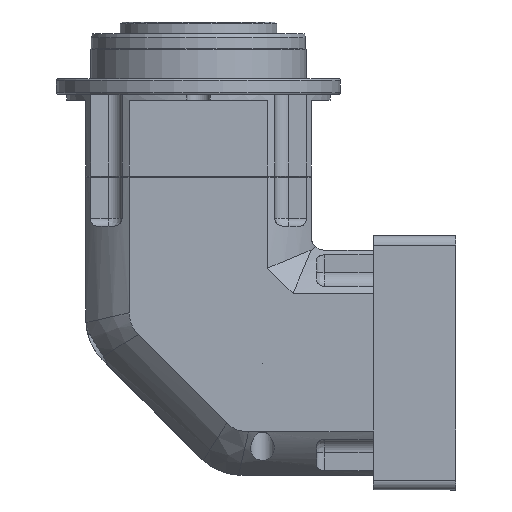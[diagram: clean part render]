
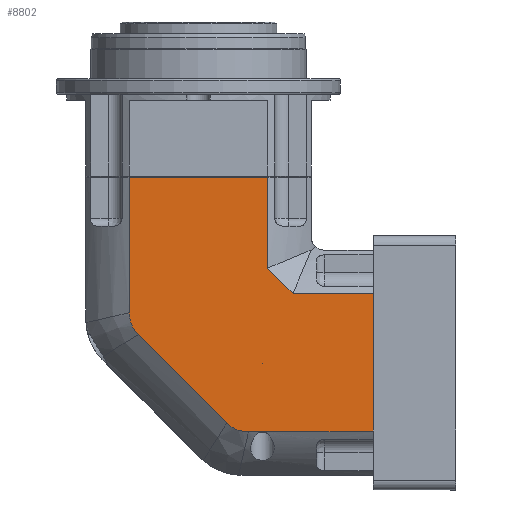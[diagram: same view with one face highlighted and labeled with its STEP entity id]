
A CAD part, left-side view. The second image highlights one B-rep face of the part: STEP entity #8802.
In plain terms, the highlighted planar face has unit normal (-1, 0, 0).
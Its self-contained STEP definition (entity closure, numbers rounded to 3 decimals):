
#6913=CARTESIAN_POINT('',(-57.5,35.355,152.3));
#6914=VERTEX_POINT('',#6913);
#6922=CARTESIAN_POINT('',(-57.5,-35.355,152.3));
#6923=VERTEX_POINT('',#6922);
#6924=CARTESIAN_POINT('',(-57.5,-35.355,152.3));
#6925=DIRECTION('',(0.0,1.0,0.0));
#6926=VECTOR('',#6925,70.711);
#6927=LINE('',#6924,#6926);
#6928=EDGE_CURVE('',#6923,#6914,#6927,.T.);
#7605=CARTESIAN_POINT('',(-57.5,-89.3,92.855));
#7606=VERTEX_POINT('',#7605);
#7614=CARTESIAN_POINT('',(-57.5,-89.3,22.145));
#7615=VERTEX_POINT('',#7614);
#7616=CARTESIAN_POINT('',(-57.5,-89.3,22.145));
#7617=DIRECTION('',(0.0,0.0,1.0));
#7618=VECTOR('',#7617,70.711);
#7619=LINE('',#7616,#7618);
#7620=EDGE_CURVE('',#7615,#7606,#7619,.T.);
#8141=CARTESIAN_POINT('',(-57.5,-25.547,22.145));
#8142=VERTEX_POINT('',#8141);
#8143=CARTESIAN_POINT('',(-57.5,-25.547,22.145));
#8144=DIRECTION('',(0.0,-1.0,0.0));
#8145=VECTOR('',#8144,63.753);
#8146=LINE('',#8143,#8145);
#8147=EDGE_CURVE('',#8142,#7615,#8146,.T.);
#8563=CARTESIAN_POINT('',(-57.5,-14.436,26.747));
#8564=VERTEX_POINT('',#8563);
#8574=CARTESIAN_POINT('',(-57.5,30.753,71.936));
#8575=VERTEX_POINT('',#8574);
#8576=CARTESIAN_POINT('',(-57.5,30.753,71.936));
#8577=DIRECTION('',(0.,-0.707,-0.707));
#8578=VECTOR('',#8577,63.906);
#8579=LINE('',#8576,#8578);
#8580=EDGE_CURVE('',#8575,#8564,#8579,.T.);
#8650=CARTESIAN_POINT('',(-57.5,-25.547,22.145));
#8651=CARTESIAN_POINT('',(-57.5,-23.474,22.145));
#8652=CARTESIAN_POINT('',(-57.5,-21.442,22.528));
#8653=CARTESIAN_POINT('',(-57.5,-17.613,24.113));
#8654=CARTESIAN_POINT('',(-57.5,-15.903,25.28));
#8655=CARTESIAN_POINT('',(-57.5,-14.436,26.747));
#8656=B_SPLINE_CURVE_WITH_KNOTS('',3,(#8650,#8651,#8652,#8653,#8654,#8655),.UNSPECIFIED.,.F.,.U.,(4,2,4),(0.0,0.622,1.245),.UNSPECIFIED.);
#8657=EDGE_CURVE('',#8142,#8564,#8656,.T.);
#8751=CARTESIAN_POINT('',(-57.5,-35.355,0.0));
#8752=DIRECTION('',(-1.0,0.0,0.0));
#8753=DIRECTION('',(0.0,0.0,1.0));
#8754=AXIS2_PLACEMENT_3D('',#8751,#8752,#8753);
#8755=PLANE('',#8754);
#8756=ORIENTED_EDGE('',*,*,#6928,.T.);
#8757=CARTESIAN_POINT('',(-57.5,35.355,83.047));
#8758=VERTEX_POINT('',#8757);
#8759=CARTESIAN_POINT('',(-57.5,35.355,83.047));
#8760=DIRECTION('',(0.0,0.0,1.0));
#8761=VECTOR('',#8760,69.253);
#8762=LINE('',#8759,#8761);
#8763=EDGE_CURVE('',#8758,#6914,#8762,.T.);
#8764=ORIENTED_EDGE('',*,*,#8763,.F.);
#8765=CARTESIAN_POINT('',(-57.5,30.753,71.936));
#8766=CARTESIAN_POINT('',(-57.5,32.219,73.402));
#8767=CARTESIAN_POINT('',(-57.5,33.384,75.11));
#8768=CARTESIAN_POINT('',(-57.5,34.971,78.938));
#8769=CARTESIAN_POINT('',(-57.5,35.355,80.971));
#8770=CARTESIAN_POINT('',(-57.5,35.355,83.047));
#8771=B_SPLINE_CURVE_WITH_KNOTS('',3,(#8765,#8766,#8767,#8768,#8769,#8770),.UNSPECIFIED.,.F.,.U.,(4,2,4),(0.0,0.622,1.245),.UNSPECIFIED.);
#8772=EDGE_CURVE('',#8575,#8758,#8771,.T.);
#8773=ORIENTED_EDGE('',*,*,#8772,.F.);
#8774=ORIENTED_EDGE('',*,*,#8580,.T.);
#8775=ORIENTED_EDGE('',*,*,#8657,.F.);
#8776=ORIENTED_EDGE('',*,*,#8147,.T.);
#8777=ORIENTED_EDGE('',*,*,#7620,.T.);
#8778=CARTESIAN_POINT('',(-57.5,-48.327,92.855));
#8779=VERTEX_POINT('',#8778);
#8780=CARTESIAN_POINT('',(-57.5,-48.327,92.855));
#8781=DIRECTION('',(0.0,-1.0,0.0));
#8782=VECTOR('',#8781,40.973);
#8783=LINE('',#8780,#8782);
#8784=EDGE_CURVE('',#8779,#7606,#8783,.T.);
#8785=ORIENTED_EDGE('',*,*,#8784,.F.);
#8786=CARTESIAN_POINT('',(-57.5,-35.355,105.827));
#8787=VERTEX_POINT('',#8786);
#8788=CARTESIAN_POINT('',(-57.5,-48.327,92.855));
#8789=DIRECTION('',(0.0,0.707,0.707));
#8790=VECTOR('',#8789,18.345);
#8791=LINE('',#8788,#8790);
#8792=EDGE_CURVE('',#8779,#8787,#8791,.T.);
#8793=ORIENTED_EDGE('',*,*,#8792,.T.);
#8794=CARTESIAN_POINT('',(-57.5,-35.355,105.827));
#8795=DIRECTION('',(0.0,0.0,1.0));
#8796=VECTOR('',#8795,46.473);
#8797=LINE('',#8794,#8796);
#8798=EDGE_CURVE('',#8787,#6923,#8797,.T.);
#8799=ORIENTED_EDGE('',*,*,#8798,.T.);
#8800=EDGE_LOOP('',(#8756,#8764,#8773,#8774,#8775,#8776,#8777,#8785,#8793,#8799));
#8801=FACE_OUTER_BOUND('',#8800,.T.);
#8802=ADVANCED_FACE('',(#8801),#8755,.T.);
